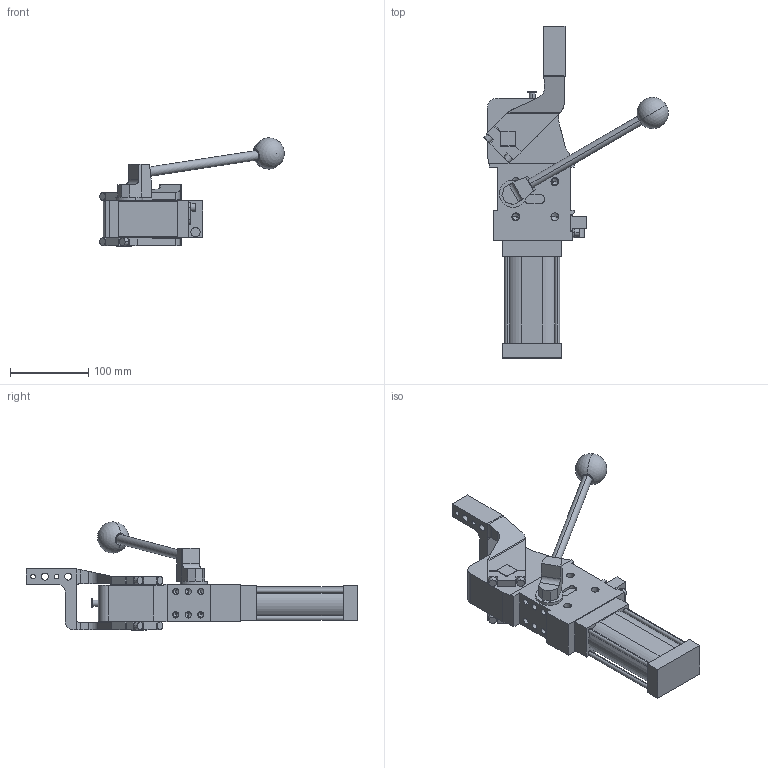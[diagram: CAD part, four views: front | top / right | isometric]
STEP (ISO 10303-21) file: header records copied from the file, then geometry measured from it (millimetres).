
FILE_DESCRIPTION (( 'STEP AP214' ), '1' );
FILE_NAME ('cplm50lah3ssi1g_75.STEP', '2023-01-26T13:58:18', ( '' ), ( '' ), 'SwSTEP 2.0', 'SolidWorks 2022', '' );
FILE_SCHEMA (( 'AUTOMOTIVE_DESIGN' ));
Length unit declared in the file: millimetre
Products named in the file (5): leva_sx_offset_45_cpl50; comando_manuale_cplm_50; cplm50lah3ssi1g_75; blocchetto_VEP_0; meccanica_cplm_50
Assembly tree (4 placements, depth 2):
  cplm50lah3ssi1g_75
    meccanica_cplm_50
    blocchetto_VEP_0
    leva_sx_offset_45_cpl50
    comando_manuale_cplm_50
Bounding box: 236.03 x 424.5 x 138.5 mm (x, y, z)
Volume: 1483582.8 mm3; surface area: 184927.1 mm2
Topology: 4 solids, 4 shells, 433 faces, 1114 edges, 695 vertices
Faces by surface type: plane 214, cylinder 167, cone 50, sphere 2
Entity records: 14434 total; most frequent: CARTESIAN_POINT 2298, DIRECTION 2278, ORIENTED_EDGE 2126, EDGE_CURVE 1063, AXIS2_PLACEMENT_3D 790, VECTOR 698, LINE 698, VERTEX_POINT 692
